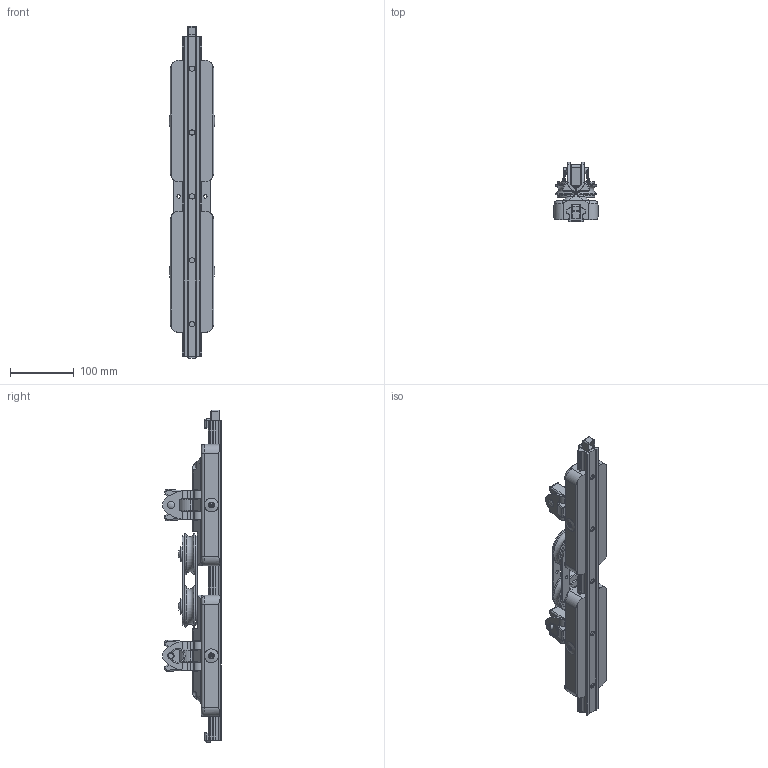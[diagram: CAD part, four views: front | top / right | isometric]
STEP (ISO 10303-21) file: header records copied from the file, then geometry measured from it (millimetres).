
FILE_DESCRIPTION(/* description */ (''),/* implementation_level */ '2;1');
FILE_NAME(/* name */ 'D:\Utenti\lucade\Desktop\5194.stp',/* time_stamp */ '2020-06-10T12:36:56+02:00',/* author */ ('lucade'),/* organization */ (''),/* preprocessor_version */ 'ST-DEVELOPER v18.1',/* originating_system */ 'Autodesk Inventor 2021',/* authorisation */ '');
FILE_SCHEMA (('AUTOMOTIVE_DESIGN { 1 0 10303 214 3 1 1 }'));
Products named in the file (1): Parte12
Bounding box: 71.92 x 92.27 x 519.8 mm (x, y, z)
Volume: 1134685.8 mm3; surface area: 185465 mm2
Topology: 1 solids, 3 shells, 1473 faces, 4065 edges, 2580 vertices
Faces by surface type: cylinder 507, plane 483, bspline 198, torus 166, cone 103, sphere 16
Full cylindrical faces by diameter (mm): 2.5 x2, 3.5 x2, 3.6 x2, 5.1 x4, 5.2 x4, 6.8 x2, 8 x2, 8.2 x15, 8.4 x8, 8.5 x4, 10 x6, 10.2 x4, 17 x8, 24 x2, 45 x4
Entity records: 56205 total; most frequent: CARTESIAN_POINT 19786, ORIENTED_EDGE 8044, DIRECTION 7359, EDGE_CURVE 4022, AXIS2_PLACEMENT_3D 2918, VERTEX_POINT 2580, EDGE_LOOP 1580, LINE 1523
